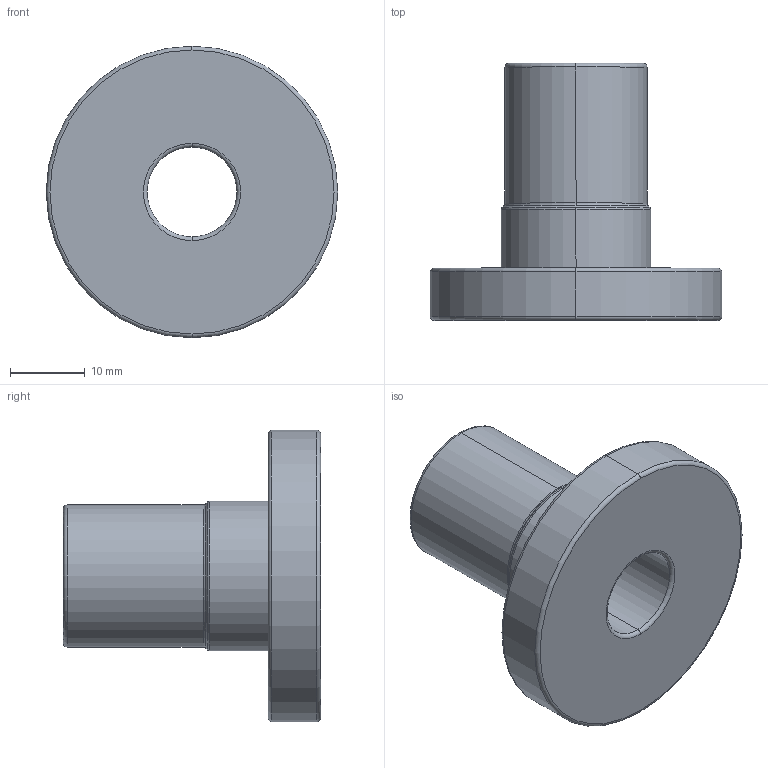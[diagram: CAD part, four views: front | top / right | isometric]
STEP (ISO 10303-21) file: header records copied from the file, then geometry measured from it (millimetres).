
FILE_DESCRIPTION(('CATIA V5 STEP Exchange','CAx-IF Rec.Pracs.--- Composite Materials ---3.4---2017-06-13'),'2;1');
FILE_NAME('C:\Users\PM610867\AppData\Local\ST-WORK_R32_PROD\Liasse-PDF\IEM_PEPSI_CEG_DEF_K_1229_230-BAGUE_EPAULEE_D16_DOME-A.stp','2025-02-14T10:15:55+00:00',('none'),('none'),'CATIA Version 5-6 Release 2022 SP2','CATIA V5 STEP AP203 v2','none');
FILE_SCHEMA(('CONFIG_CONTROL_DESIGN'));
Length unit declared in the file: millimetre
Products named in the file (1): IEM PEPSI CEG DEF K 1229 230
Bounding box: 39 x 34.4 x 39 mm (x, y, z)
Volume: 12153.2 mm3; surface area: 5989.9 mm2
Topology: 1 solids, 1 shells, 34 faces, 68 edges, 38 vertices
Faces by surface type: torus 20, cylinder 8, plane 4, cone 2
Entity records: 806 total; most frequent: ORIENTED_EDGE 136, CARTESIAN_POINT 126, DIRECTION 106, AXIS2_PLACEMENT_3D 78, EDGE_CURVE 68, CIRCLE 58, EDGE_LOOP 38, VERTEX_POINT 38
